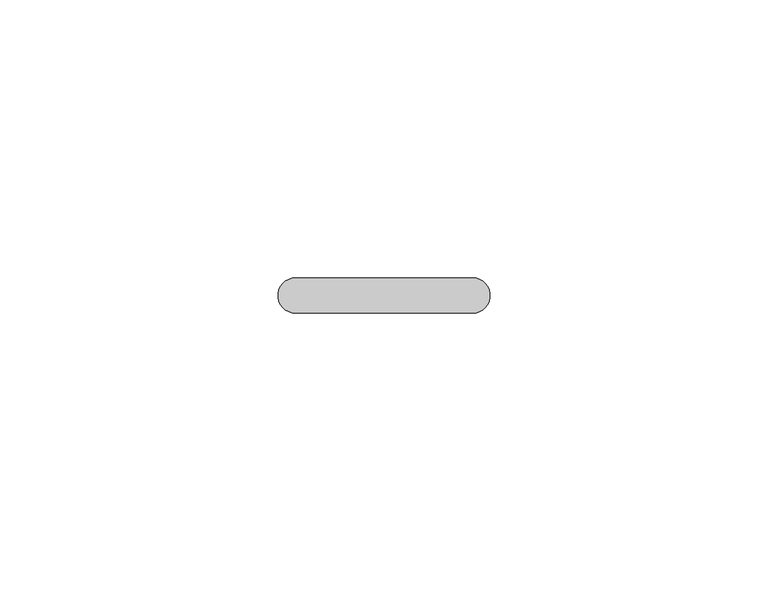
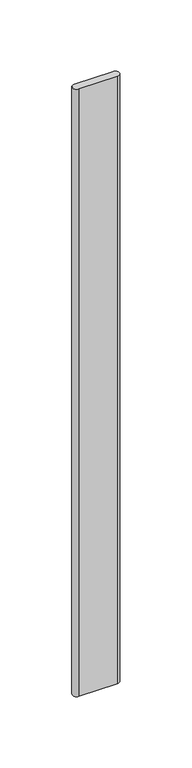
"""IFC4 building model written with IfcOpenShell, lengths in millimetres: proxy geometry, Durabond Generic Model Insulation Adhesive Flat : Durabond Generic Model Insulation Adhesive Flat."""

from ifc_helpers import new_model, si_unit, point, frame_2d, origin, origin_with_axes, place, context, project, spatial, polyline, circle_curve, trimmed, segment, composite_curve, outline, extrude, source, transform, mapped, element, save


def generic_models_b4f71f2a(model_context):
    return source(origin(), model_context, "Body", "SweptSolid", [
        extrude(outline(composite_curve([segment(trimmed(circle_curve(frame_2d((15.875, 0.0)), 3.175), [point((15.875, 3.175))], [point((15.875, -3.175))], False, "CARTESIAN"), True, "CONTINUOUS"), segment(polyline([(15.875, -3.175), (-15.875, -3.175)]), True, "CONTINUOUS"), segment(trimmed(circle_curve(frame_2d((-15.875, 0.0)), 3.175), [point((-15.875, -3.175))], [point((-15.875, 3.175))], False, "CARTESIAN"), True, "CONTINUOUS"), segment(polyline([(-15.875, 3.175), (15.875, 3.175)]), True, "CONTINUOUS")], self_intersect=False)), origin_with_axes(), (0.0, 0.0, 1.0), 527.05),
    ])


if __name__ == "__main__":
    model = new_model("IFC4")
    model_context = context("Model", 3, world=origin())
    ifc_project = project(units=[si_unit("LENGTHUNIT", "METRE", prefix="MILLI")], contexts=[model_context])
    site = spatial("IfcSite", under=ifc_project)
    building = spatial("IfcBuilding", under=site)
    placement = place(None, origin())
    generic_models_shape = generic_models_b4f71f2a(model_context)
    element("IfcBuildingElementProxy", 1, Name="Durabond Generic Model Insulation Adhesive Flat : Durabond Generic Model Insulation Adhesive Flat", ObjectType="Durabond Generic Model Insulation Adhesive Flat : Durabond Generic Model Insulation Adhesive Flat", at=placement, inside=building, context=model_context, shape_type="MappedRepresentation", body=[
        mapped(generic_models_shape, transform((0.0, 0.0, 0.0), x_axis=(1.0, 0.0, 0.0), y_axis=(0.0, 1.0, 0.0), z_axis=(0.0, 0.0, 1.0))),
    ])
    save(model, "model.ifc")
